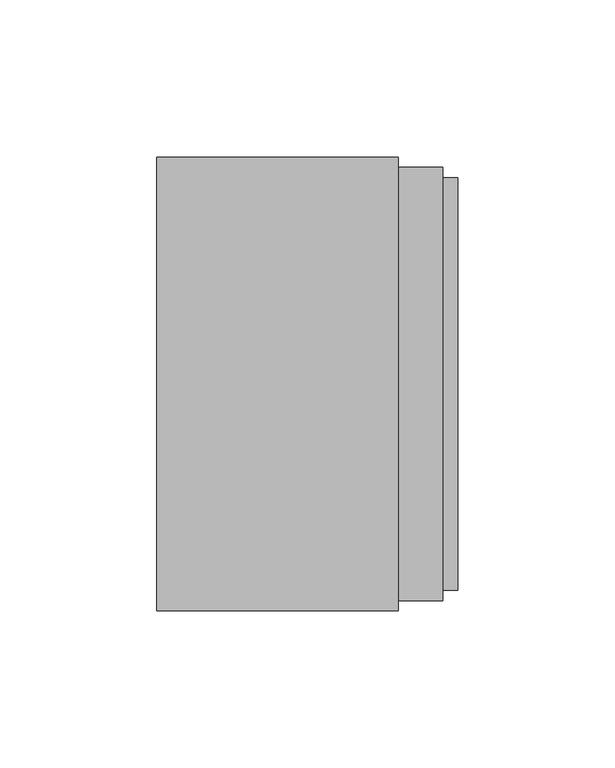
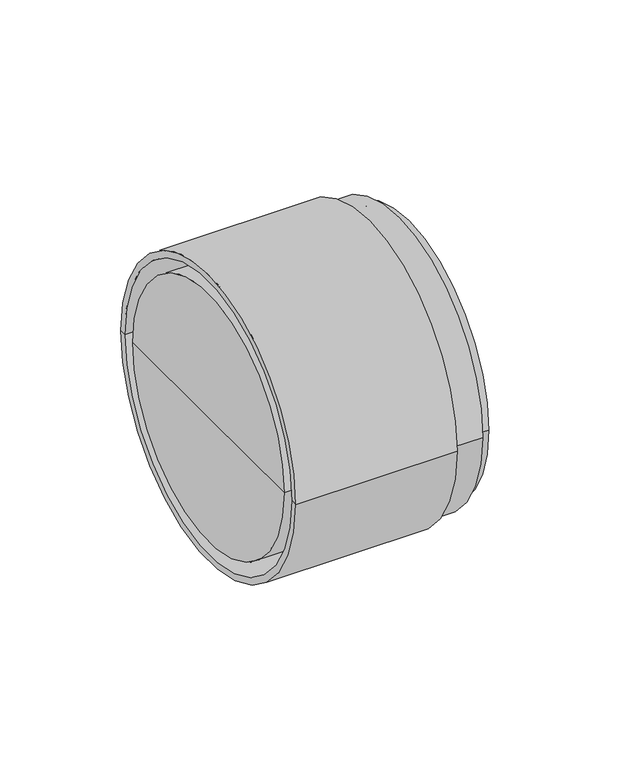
"""IFC4 building model written with IfcOpenShell, lengths in millimetres: pipe fitting geometry, pf_KGUSM : pf_KGUSM."""

from ifc_helpers import new_model, si_unit, frame, origin, place, context, project, spatial, polyline, circle_curve, source, transform, mapped, element, save
from ifc_brep_helpers import plane_surface, cylinder_surface, revolved_surface, advanced_brep


def pipe_fitting_6eddf8c8(model_context):
    return source(origin(), model_context, "Body", "AdvancedBrep", [
        advanced_brep(
        [(-1.75, 0.0, 0.0), (-1.75, 62.5, 0.0), (-1.75, -62.5, 0.0), (94.05, -65.7, 0.0), (94.05, 65.7, 0.0), (94.05, 62.5, 0.0), (94.05, -62.5, 0.0), (89.25, -65.7, 0.0), (89.25, 65.7, 0.0), (89.25, -69.1, 0.0), (89.25, 69.1, 0.0), (75.15, -69.1, 0.0), (75.15, 69.1, 0.0), (54.75, -62.5, 0.0), (54.75, 62.5, 0.0), (54.75, 0.0, 0.0), (75.15, -72.3, 0.0), (75.15, 72.3, 0.0), (-1.75, -72.3, 0.0), (-1.75, 72.3, 0.0), (-1.75, -69.1, 0.0), (-1.75, 69.1, 0.0), (68.0131579, -69.1, 0.0), (68.0131579, 69.1, 0.0), (68.0131579, -65.7, 0.0), (68.0131579, 65.7, 0.0), (54.75, -65.7, 0.0), (54.75, 65.7, 0.0), (46.25, -62.5, 0.0), (46.25, 62.5, 0.0)],
        [
            (0, 1),
            (1, 2, circle_curve(frame((-1.75, 0.0, 0.0), z_axis=(-1.0, 0.0, 0.0), x_axis=(0.0, 1.0, 0.0)), 62.5)),
            (2, 0),
            (2, 1, circle_curve(frame((-1.75, 0.0, 0.0), z_axis=(-1.0, 0.0, 0.0), x_axis=(0.0, 1.0, 0.0)), 62.5)),
            (3, 4, circle_curve(frame((94.05, 0.0, 0.0), z_axis=(1.0, 0.0, 0.0), x_axis=(0.0, 1.0, 0.0)), 65.7)),
            (4, 5),
            (5, 6, circle_curve(frame((94.05, 0.0, 0.0), z_axis=(-1.0, 0.0, 0.0), x_axis=(0.0, 1.0, 0.0)), 62.5)),
            (6, 3),
            (4, 3, circle_curve(frame((94.05, 0.0, 0.0), z_axis=(1.0, 0.0, 0.0), x_axis=(0.0, 1.0, 0.0)), 65.7)),
            (6, 5, circle_curve(frame((94.05, 0.0, 0.0), z_axis=(-1.0, 0.0, 0.0), x_axis=(0.0, 1.0, 0.0)), 62.5)),
            (7, 8, circle_curve(frame((89.25, 0.0, 0.0), z_axis=(1.0, 0.0, 0.0), x_axis=(0.0, 1.0, 0.0)), 65.7)),
            (8, 4),
            (3, 7),
            (8, 7, circle_curve(frame((89.25, 0.0, 0.0), z_axis=(1.0, 0.0, 0.0), x_axis=(0.0, 1.0, 0.0)), 65.7)),
            (9, 10, circle_curve(frame((89.25, 0.0, 0.0), z_axis=(1.0, 0.0, 0.0), x_axis=(0.0, 1.0, 0.0)), 69.1)),
            (10, 8),
            (7, 9),
            (10, 9, circle_curve(frame((89.25, 0.0, 0.0), z_axis=(1.0, 0.0, 0.0), x_axis=(0.0, 1.0, 0.0)), 69.1)),
            (11, 12, circle_curve(frame((75.15, 0.0, 0.0), z_axis=(1.0, 0.0, 0.0), x_axis=(0.0, 1.0, 0.0)), 69.1)),
            (12, 10),
            (9, 11),
            (12, 11, circle_curve(frame((75.15, 0.0, 0.0), z_axis=(1.0, 0.0, 0.0), x_axis=(0.0, 1.0, 0.0)), 69.1)),
            (13, 14, circle_curve(frame((54.75, 0.0, 0.0), z_axis=(1.0, 0.0, 0.0), x_axis=(0.0, 1.0, 0.0)), 62.5)),
            (14, 15),
            (15, 13),
            (14, 13, circle_curve(frame((54.75, 0.0, 0.0), z_axis=(1.0, 0.0, 0.0), x_axis=(0.0, 1.0, 0.0)), 62.5)),
            (5, 14),
            (13, 6),
            (16, 17, circle_curve(frame((75.15, 0.0, 0.0), z_axis=(1.0, 0.0, 0.0), x_axis=(0.0, 1.0, 0.0)), 72.3)),
            (17, 12),
            (11, 16),
            (17, 16, circle_curve(frame((75.15, 0.0, 0.0), z_axis=(1.0, 0.0, 0.0), x_axis=(0.0, 1.0, 0.0)), 72.3)),
            (18, 19, circle_curve(frame((-1.75, 0.0, 0.0), z_axis=(1.0, 0.0, 0.0), x_axis=(0.0, 1.0, 0.0)), 72.3)),
            (19, 17),
            (16, 18),
            (19, 18, circle_curve(frame((-1.75, 0.0, 0.0), z_axis=(1.0, 0.0, 0.0), x_axis=(0.0, 1.0, 0.0)), 72.3)),
            (20, 21, circle_curve(frame((-1.75, 0.0, 0.0), z_axis=(1.0, 0.0, 0.0), x_axis=(0.0, 1.0, 0.0)), 69.1)),
            (21, 19),
            (18, 20),
            (21, 20, circle_curve(frame((-1.75, 0.0, 0.0), z_axis=(1.0, 0.0, 0.0), x_axis=(0.0, 1.0, 0.0)), 69.1)),
            (22, 23, circle_curve(frame((68.0131579, 0.0, 0.0), z_axis=(1.0, 0.0, 0.0), x_axis=(0.0, 1.0, 0.0)), 69.1)),
            (23, 21),
            (20, 22),
            (23, 22, circle_curve(frame((68.0131579, 0.0, 0.0), z_axis=(1.0, 0.0, 0.0), x_axis=(0.0, 1.0, 0.0)), 69.1)),
            (24, 25, circle_curve(frame((68.0131579, 0.0, 0.0), z_axis=(1.0, 0.0, 0.0), x_axis=(0.0, 1.0, 0.0)), 65.7)),
            (25, 23),
            (22, 24),
            (25, 24, circle_curve(frame((68.0131579, 0.0, 0.0), z_axis=(1.0, 0.0, 0.0), x_axis=(0.0, 1.0, 0.0)), 65.7)),
            (26, 27, circle_curve(frame((54.75, 0.0, 0.0), z_axis=(1.0, 0.0, 0.0), x_axis=(0.0, 1.0, 0.0)), 65.7)),
            (27, 25),
            (24, 26),
            (27, 26, circle_curve(frame((54.75, 0.0, 0.0), z_axis=(1.0, 0.0, 0.0), x_axis=(0.0, 1.0, 0.0)), 65.7)),
            (28, 29, circle_curve(frame((46.25, 0.0, 0.0), z_axis=(1.0, 0.0, 0.0), x_axis=(0.0, 1.0, 0.0)), 62.5)),
            (29, 27),
            (26, 28),
            (29, 28, circle_curve(frame((46.25, 0.0, 0.0), z_axis=(1.0, 0.0, 0.0), x_axis=(0.0, 1.0, 0.0)), 62.5)),
            (1, 29),
            (28, 2),
        ],
        [
            plane_surface(frame((-1.75, 0.0, 0.0), z_axis=(-1.0, 0.0, 0.0), x_axis=(0.0, 1.0, 0.0))),
            plane_surface(frame((94.05, 0.0, 0.0), z_axis=(1.0, 0.0, 0.0), x_axis=(0.0, 1.0, 0.0))),
            cylinder_surface(frame((-1.75, 0.0, 0.0), z_axis=(-1.0, 0.0, 0.0), x_axis=(0.0, 1.0, 0.0)), 65.7),
            plane_surface(frame((89.25, 0.0, 0.0), z_axis=(1.0, 0.0, 0.0), x_axis=(0.0, 1.0, 0.0))),
            cylinder_surface(frame((-1.75, 0.0, 0.0), z_axis=(-1.0, 0.0, 0.0), x_axis=(0.0, 1.0, 0.0)), 69.1),
            plane_surface(frame((54.75, 0.0, 0.0), z_axis=(1.0, 0.0, 0.0), x_axis=(0.0, 1.0, 0.0))),
            revolved_surface(polyline([(54.75, 62.5, 0.0), (94.05, 62.5, 0.0)]), (-1.75, 0.0, 0.0), (-1.0, 0.0, 0.0)),
            plane_surface(frame((75.15, 0.0, 0.0), z_axis=(1.0, 0.0, 0.0), x_axis=(0.0, 1.0, 0.0))),
            cylinder_surface(frame((-1.75, 0.0, 0.0), z_axis=(-1.0, 0.0, 0.0), x_axis=(0.0, 1.0, 0.0)), 72.3),
            revolved_surface(polyline([(-1.75, 69.1, 0.0), (68.0131579, 69.1, 0.0)]), (-1.75, 0.0, 0.0), (-1.0, 0.0, 0.0)),
            plane_surface(frame((68.0131579, 0.0, 0.0), z_axis=(-1.0, 0.0, 0.0), x_axis=(0.0, 1.0, 0.0))),
            revolved_surface(polyline([(54.75, 65.7, 0.0), (46.25, 62.5, 0.0)]), (-1.75, 0.0, 0.0), (-1.0, 0.0, 0.0)),
            cylinder_surface(frame((-1.75, 0.0, 0.0), z_axis=(-1.0, 0.0, 0.0), x_axis=(0.0, 1.0, 0.0)), 62.5),
        ],
        [
            (0, [[1, 2, 3]]),
            (0, [[-3, 4, -1]]),
            (1, [[5, 6, 7, 8]]),
            (1, [[9, -8, 10, -6]]),
            (2, [[11, 12, -5, 13]]),
            (2, [[14, -13, -9, -12]]),
            (3, [[15, 16, -11, 17]]),
            (3, [[18, -17, -14, -16]]),
            (4, [[19, 20, -15, 21]]),
            (4, [[22, -21, -18, -20]]),
            (5, [[23, 24, 25]]),
            (5, [[26, -25, -24]]),
            (6, [[-7, 27, -23, 28]]),
            (6, [[-10, -28, -26, -27]]),
            (7, [[29, 30, -19, 31]]),
            (7, [[32, -31, -22, -30]]),
            (8, [[33, 34, -29, 35]]),
            (8, [[36, -35, -32, -34]]),
            (0, [[37, 38, -33, 39]]),
            (0, [[40, -39, -36, -38]]),
            (9, [[41, 42, -37, 43]]),
            (9, [[44, -43, -40, -42]]),
            (10, [[45, 46, -41, 47]]),
            (10, [[48, -47, -44, -46]]),
            (2, [[49, 50, -45, 51]]),
            (2, [[52, -51, -48, -50]]),
            (11, [[53, 54, -49, 55]]),
            (11, [[56, -55, -52, -54]]),
            (12, [[-2, 57, -53, 58]]),
            (12, [[-4, -58, -56, -57]]),
        ],
    ),
    ])


if __name__ == "__main__":
    model = new_model("IFC4")
    model_context = context("Model", 3, world=origin())
    ifc_project = project(units=[si_unit("LENGTHUNIT", "METRE", prefix="MILLI")], contexts=[model_context])
    site = spatial("IfcSite", under=ifc_project)
    building = spatial("IfcBuilding", under=site)
    placement = place(None, origin())
    pipe_fitting_shape = pipe_fitting_6eddf8c8(model_context)
    element("IfcPipeFitting", 1, ObjectType="pf_KGUSM : pf_KGUSM", at=placement, inside=building, context=model_context, shape_type="MappedRepresentation", body=[
        mapped(pipe_fitting_shape, transform((0.0, 0.0, 0.0), x_axis=(1.0, 0.0, 0.0), y_axis=(0.0, 1.0, 0.0), z_axis=(0.0, 0.0, 1.0))),
    ])
    save(model, "model.ifc")
